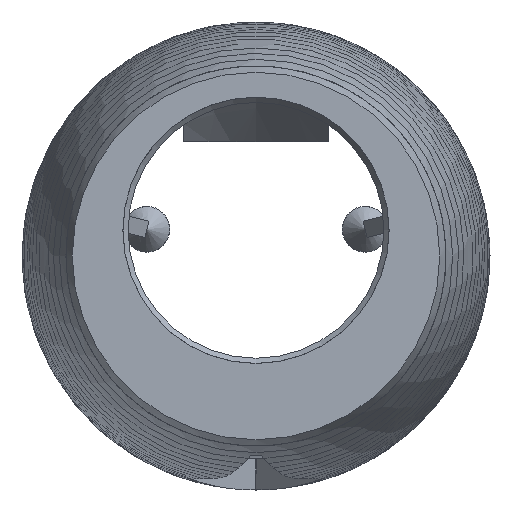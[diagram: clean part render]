
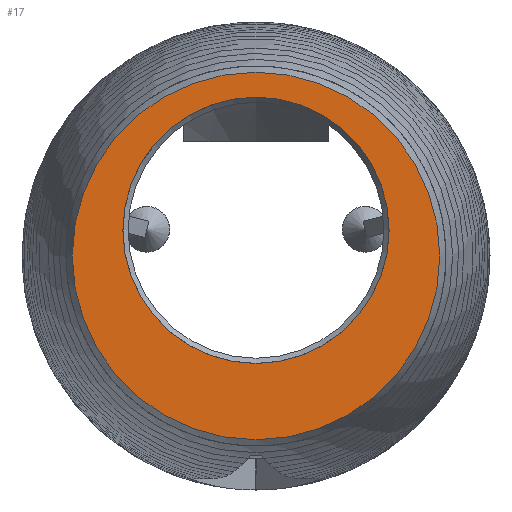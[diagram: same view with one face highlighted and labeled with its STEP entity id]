
A CAD part, left-side view. The second image highlights one B-rep face of the part: STEP entity #17.
In plain terms, the highlighted planar face has unit normal (-1, 0, 0).
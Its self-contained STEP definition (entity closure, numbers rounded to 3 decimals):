
#17 = ADVANCED_FACE('',(#18,#54),#31,.F.);
#18 = FACE_BOUND('',#19,.F.);
#19 = EDGE_LOOP('',(#20));
#20 = ORIENTED_EDGE('',*,*,#21,.F.);
#21 = EDGE_CURVE('',#22,#22,#24,.T.);
#22 = VERTEX_POINT('',#23);
#23 = CARTESIAN_POINT('',(17.9,0.,15.272));
#24 = SURFACE_CURVE('',#25,(#30,#42),.PCURVE_S1.);
#25 = CIRCLE('',#26,12.802);
#26 = AXIS2_PLACEMENT_3D('',#27,#28,#29);
#27 = CARTESIAN_POINT('',(17.9,0.,2.47));
#28 = DIRECTION('',(1.,0.,0.));
#29 = DIRECTION('',(0.,0.,1.));
#30 = PCURVE('',#31,#36);
#31 = PLANE('',#32);
#32 = AXIS2_PLACEMENT_3D('',#33,#34,#35);
#33 = CARTESIAN_POINT('',(17.9,-30.,-30.));
#34 = DIRECTION('',(1.,0.,-0.));
#35 = DIRECTION('',(0.,0.,1.));
#36 = DEFINITIONAL_REPRESENTATION('',(#37),#41);
#37 = CIRCLE('',#38,12.802);
#38 = AXIS2_PLACEMENT_2D('',#39,#40);
#39 = CARTESIAN_POINT('',(32.47,-30.));
#40 = DIRECTION('',(1.,0.));
#41 = ( GEOMETRIC_REPRESENTATION_CONTEXT(2) 
PARAMETRIC_REPRESENTATION_CONTEXT() REPRESENTATION_CONTEXT('2D SPACE',''
  ) );
#42 = PCURVE('',#43,#48);
#43 = CYLINDRICAL_SURFACE('',#44,12.802);
#44 = AXIS2_PLACEMENT_3D('',#45,#46,#47);
#45 = CARTESIAN_POINT('',(16.9,0.,2.47));
#46 = DIRECTION('',(1.,0.,0.));
#47 = DIRECTION('',(-0.,0.,1.));
#48 = DEFINITIONAL_REPRESENTATION('',(#49),#53);
#49 = LINE('',#50,#51);
#50 = CARTESIAN_POINT('',(0.,1.));
#51 = VECTOR('',#52,1.);
#52 = DIRECTION('',(1.,-0.));
#53 = ( GEOMETRIC_REPRESENTATION_CONTEXT(2) 
PARAMETRIC_REPRESENTATION_CONTEXT() REPRESENTATION_CONTEXT('2D SPACE',''
  ) );
#54 = FACE_BOUND('',#55,.F.);
#55 = EDGE_LOOP('',(#56));
#56 = ORIENTED_EDGE('',*,*,#57,.F.);
#57 = EDGE_CURVE('',#58,#58,#60,.T.);
#58 = VERTEX_POINT('',#59);
#59 = CARTESIAN_POINT('',(17.9,17.669,0.));
#60 = SURFACE_CURVE('',#61,(#66,#77),.PCURVE_S1.);
#61 = CIRCLE('',#62,17.669);
#62 = AXIS2_PLACEMENT_3D('',#63,#64,#65);
#63 = CARTESIAN_POINT('',(17.9,0.,0.)
  );
#64 = DIRECTION('',(-1.,-0.,0.));
#65 = DIRECTION('',(-0.,1.,0.));
#66 = PCURVE('',#31,#67);
#67 = DEFINITIONAL_REPRESENTATION('',(#68),#76);
#68 = ( BOUNDED_CURVE() B_SPLINE_CURVE(2,(#69,#70,#71,#72,#73,#74,#75),
.UNSPECIFIED.,.T.,.F.) B_SPLINE_CURVE_WITH_KNOTS((1,2,2,2,2,1),(
    -2.094,0.,2.094,4.189,6.283,
8.378),.UNSPECIFIED.) CURVE() GEOMETRIC_REPRESENTATION_ITEM() 
RATIONAL_B_SPLINE_CURVE((1.,0.5,1.,0.5,1.,0.5,1.)) REPRESENTATION_ITEM(
  '') );
#69 = CARTESIAN_POINT('',(30.,-47.669));
#70 = CARTESIAN_POINT('',(-0.603,-47.669));
#71 = CARTESIAN_POINT('',(14.698,-21.166));
#72 = CARTESIAN_POINT('',(30.,5.337));
#73 = CARTESIAN_POINT('',(45.302,-21.166));
#74 = CARTESIAN_POINT('',(60.603,-47.669));
#75 = CARTESIAN_POINT('',(30.,-47.669));
#76 = ( GEOMETRIC_REPRESENTATION_CONTEXT(2) 
PARAMETRIC_REPRESENTATION_CONTEXT() REPRESENTATION_CONTEXT('2D SPACE',''
  ) );
#77 = PCURVE('',#78,#83);
#78 = CONICAL_SURFACE('',#79,17.669,0.347);
#79 = AXIS2_PLACEMENT_3D('',#80,#81,#82);
#80 = CARTESIAN_POINT('',(17.9,0.,0.));
#81 = DIRECTION('',(1.,0.,0.));
#82 = DIRECTION('',(-0.,1.,0.));
#83 = DEFINITIONAL_REPRESENTATION('',(#84),#88);
#84 = LINE('',#85,#86);
#85 = CARTESIAN_POINT('',(6.283,0.));
#86 = VECTOR('',#87,1.);
#87 = DIRECTION('',(-1.,-0.));
#88 = ( GEOMETRIC_REPRESENTATION_CONTEXT(2) 
PARAMETRIC_REPRESENTATION_CONTEXT() REPRESENTATION_CONTEXT('2D SPACE',''
  ) );
